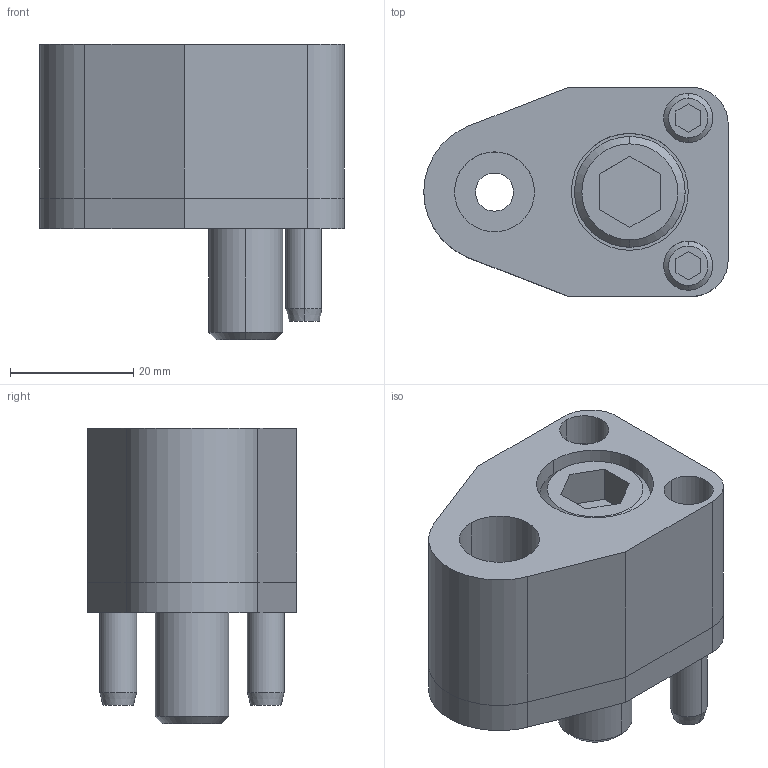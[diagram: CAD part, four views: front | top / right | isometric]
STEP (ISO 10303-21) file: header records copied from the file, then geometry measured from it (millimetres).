
FILE_DESCRIPTION(/* description */ (''),/* implementation_level */ '2;1');
FILE_NAME(/* name */ '3d_sp-aps13_02783_r00.stp',/* time_stamp */ '2011-01-10T14:10:17+09:00',/* author */ ('MISUMI'),/* organization */ (''),/* preprocessor_version */ 'ST-DEVELOPER v11',/* originating_system */ 'UGS - NX 5.0',/* authorisation */ '');
FILE_SCHEMA (('CONFIG_CONTROL_DESIGN'));
Length unit declared in the file: millimetre
Products named in the file (1): 3d_sp-aps13_02783_r00
Bounding box: 49.5 x 34 x 48 mm (x, y, z)
Volume: 39101.3 mm3; surface area: 17586.7 mm2
Topology: 7 solids, 7 shells, 130 faces, 290 edges, 186 vertices
Faces by surface type: plane 56, cylinder 52, cone 22
Entity records: 3770 total; most frequent: DIRECTION 674, CARTESIAN_POINT 655, ORIENTED_EDGE 580, EDGE_CURVE 290, AXIS2_PLACEMENT_3D 257, VERTEX_POINT 186, LINE 160, VECTOR 160
